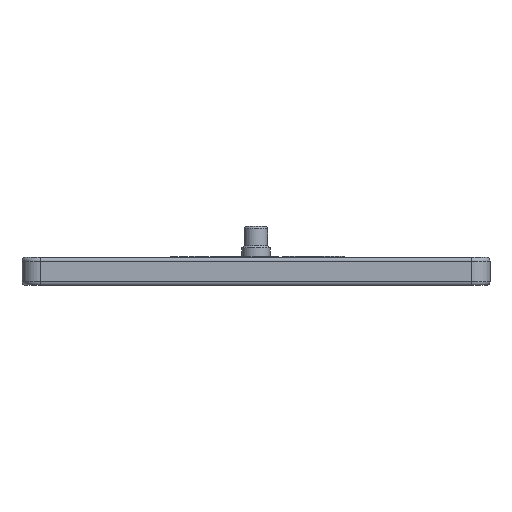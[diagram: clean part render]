
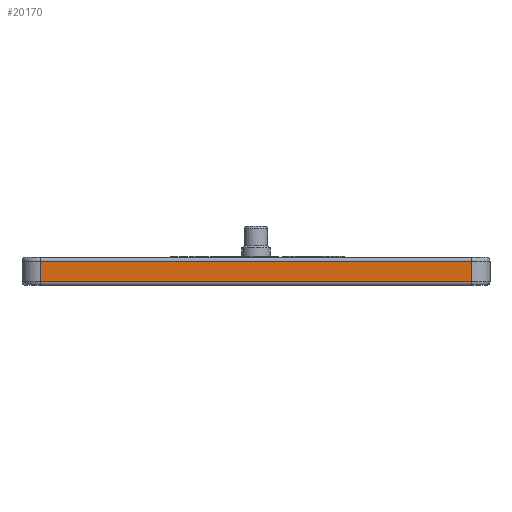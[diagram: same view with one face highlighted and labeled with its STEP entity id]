
A CAD part, front view. The second image highlights one B-rep face of the part: STEP entity #20170.
In plain terms, the highlighted planar face has unit normal (0, -1, 0).
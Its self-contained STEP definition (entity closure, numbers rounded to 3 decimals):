
#2415=LINE('',#40907,#3630);
#2426=LINE('',#40934,#3641);
#2427=LINE('',#40938,#3642);
#2428=LINE('',#40939,#3643);
#3630=VECTOR('',#26828,10.);
#3641=VECTOR('',#26859,10.);
#3642=VECTOR('',#26864,10.);
#3643=VECTOR('',#26865,10.);
#5110=FACE_OUTER_BOUND('',#6319,.T.);
#6319=EDGE_LOOP('',(#17360,#17361,#17362,#17363));
#9018=VERTEX_POINT('',#40792);
#9055=VERTEX_POINT('',#40901);
#9061=VERTEX_POINT('',#40933);
#9062=VERTEX_POINT('',#40937);
#11842=EDGE_CURVE('',#9018,#9055,#2415,.T.);
#11856=EDGE_CURVE('',#9055,#9061,#2426,.T.);
#11858=EDGE_CURVE('',#9062,#9018,#2427,.T.);
#11859=EDGE_CURVE('',#9061,#9062,#2428,.T.);
#17360=ORIENTED_EDGE('',*,*,#11842,.F.);
#17361=ORIENTED_EDGE('',*,*,#11858,.F.);
#17362=ORIENTED_EDGE('',*,*,#11859,.F.);
#17363=ORIENTED_EDGE('',*,*,#11856,.F.);
#17922=PLANE('',#22024);
#20170=ADVANCED_FACE('',(#5110),#17922,.T.);
#22024=AXIS2_PLACEMENT_3D('',#40936,#26862,#26863);
#26828=DIRECTION('',(-1.,0.,0.));
#26859=DIRECTION('',(0.,0.,1.));
#26862=DIRECTION('center_axis',(0.,-1.,0.));
#26863=DIRECTION('ref_axis',(1.,0.,0.));
#26864=DIRECTION('',(0.,0.,-1.));
#26865=DIRECTION('',(1.,0.,0.));
#40792=CARTESIAN_POINT('',(46.,-95.154,-24.233));
#40901=CARTESIAN_POINT('',(-46.,-95.154,-24.233));
#40907=CARTESIAN_POINT('',(-25.,-95.154,-24.233));
#40933=CARTESIAN_POINT('',(-46.,-95.154,-19.833));
#40934=CARTESIAN_POINT('',(-46.,-95.154,-25.033));
#40936=CARTESIAN_POINT('Origin',(-50.,-95.154,-25.033));
#40937=CARTESIAN_POINT('',(46.,-95.154,-19.833));
#40938=CARTESIAN_POINT('',(46.,-95.154,-25.033));
#40939=CARTESIAN_POINT('',(-25.,-95.154,-19.833));
